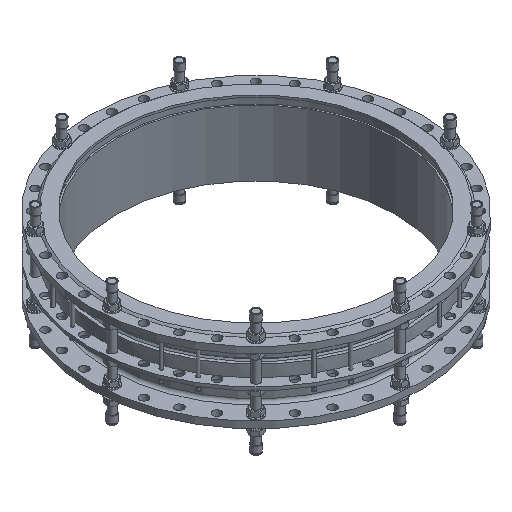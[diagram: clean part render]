
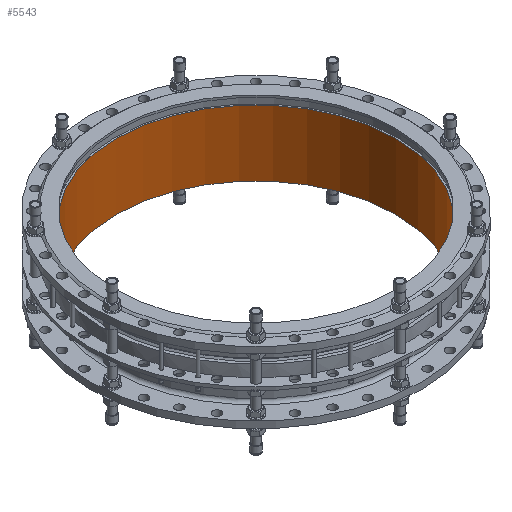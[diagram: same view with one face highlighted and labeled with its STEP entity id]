
A CAD part, isometric view. The second image highlights one B-rep face of the part: STEP entity #5543.
In plain terms, the highlighted cylindrical face has radius 750 mm (diameter 1500 mm), a full revolution.
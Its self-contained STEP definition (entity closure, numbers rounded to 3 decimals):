
#5543=ADVANCED_FACE('',(#6265,#6267),#6269,.F.);
#6265=FACE_OUTER_BOUND('',#6266,.T.);
#6266=EDGE_LOOP('',(#9246));
#6267=FACE_OUTER_BOUND('',#6268,.T.);
#6268=EDGE_LOOP('',(#9247));
#6269=CYLINDRICAL_SURFACE('',#6270,750.);
#6270=AXIS2_PLACEMENT_3D('',#6271,#6272,#6273);
#6271=CARTESIAN_POINT('',(0.,0.,0.));
#6272=DIRECTION('',(0.,0.,1.));
#6273=DIRECTION('',(-1.,0.,0.));
#9246=ORIENTED_EDGE('',*,*,#11049,.F.);
#9247=ORIENTED_EDGE('',*,*,#11050,.F.);
#11049=EDGE_CURVE('',#11866,#11866,#11867,.T.);
#11050=EDGE_CURVE('',#11868,#11868,#11869,.T.);
#11866=VERTEX_POINT('',#13339);
#11867=CIRCLE('',#13340,750.);
#11868=VERTEX_POINT('',#13344);
#11869=CIRCLE('',#13345,750.);
#13339=CARTESIAN_POINT('',(-750.,0.,353.));
#13340=AXIS2_PLACEMENT_3D('',#13341,#13342,#13343);
#13341=CARTESIAN_POINT('',(0.,0.,353.));
#13342=DIRECTION('',(0.,0.,-1.));
#13343=DIRECTION('',(-1.,0.,0.));
#13344=CARTESIAN_POINT('',(-750.,0.,0.));
#13345=AXIS2_PLACEMENT_3D('',#13346,#13347,#13348);
#13346=CARTESIAN_POINT('',(0.,0.,0.));
#13347=DIRECTION('',(0.,0.,1.));
#13348=DIRECTION('',(-1.,0.,0.));
